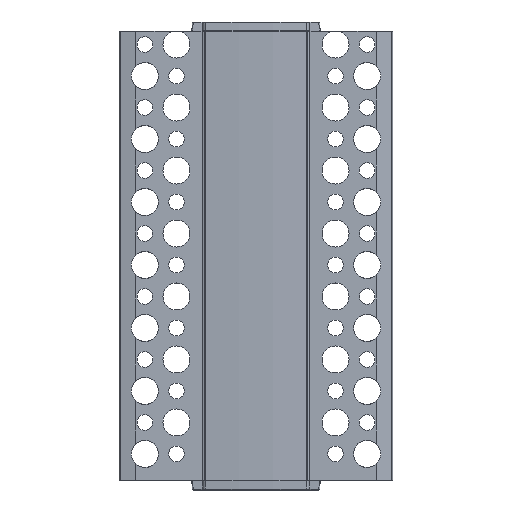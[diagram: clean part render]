
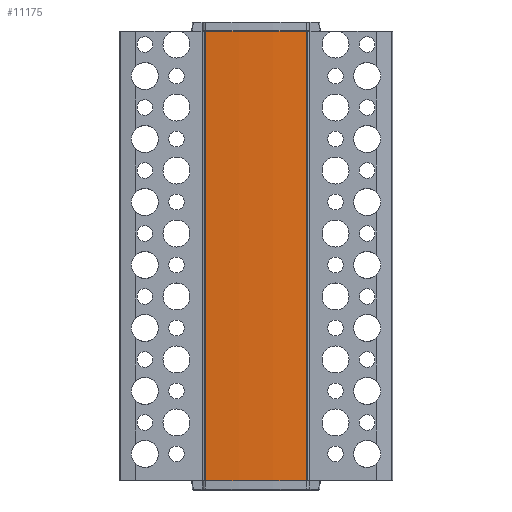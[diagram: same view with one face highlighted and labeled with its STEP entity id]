
A CAD part, top view. The second image highlights one B-rep face of the part: STEP entity #11175.
In plain terms, the highlighted cylindrical face has radius 136.173 mm (diameter 272.345 mm), a partial arc.
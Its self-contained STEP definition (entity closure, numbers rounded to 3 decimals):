
#859=FACE_OUTER_BOUND('',#1638,.T.);
#1638=EDGE_LOOP('',(#8390,#8391,#8392,#8393));
#2401=CIRCLE('',#12192,136.172);
#2413=CIRCLE('',#12205,136.172);
#3060=LINE('',#17780,#4011);
#3067=LINE('',#17820,#4018);
#4011=VECTOR('',#14175,0.2);
#4018=VECTOR('',#14214,0.2);
#5032=VERTEX_POINT('',#17777);
#5033=VERTEX_POINT('',#17779);
#5035=VERTEX_POINT('',#17785);
#5050=VERTEX_POINT('',#17818);
#6239=EDGE_CURVE('',#5032,#5033,#3060,.T.);
#6242=EDGE_CURVE('',#5033,#5035,#2401,.T.);
#6259=EDGE_CURVE('',#5050,#5032,#2413,.T.);
#6260=EDGE_CURVE('',#5035,#5050,#3067,.T.);
#8390=ORIENTED_EDGE('',*,*,#6239,.F.);
#8391=ORIENTED_EDGE('',*,*,#6259,.F.);
#8392=ORIENTED_EDGE('',*,*,#6260,.F.);
#8393=ORIENTED_EDGE('',*,*,#6242,.F.);
#10848=CYLINDRICAL_SURFACE('',#12204,136.172);
#11175=ADVANCED_FACE('',(#859),#10848,.T.);
#12192=AXIS2_PLACEMENT_3D('',#17786,#14181,#14182);
#12204=AXIS2_PLACEMENT_3D('',#17817,#14210,#14211);
#12205=AXIS2_PLACEMENT_3D('',#17819,#14212,#14213);
#14175=DIRECTION('',(0.,-1.,0.));
#14181=DIRECTION('center_axis',(0.,-1.,0.));
#14182=DIRECTION('ref_axis',(0.086,0.,0.996));
#14210=DIRECTION('center_axis',(0.,1.,0.));
#14211=DIRECTION('ref_axis',(0.086,0.,0.996));
#14212=DIRECTION('center_axis',(0.,1.,0.));
#14213=DIRECTION('ref_axis',(0.086,0.,0.996));
#14214=DIRECTION('',(0.,1.,0.));
#17777=CARTESIAN_POINT('',(11.235,100.,14.036));
#17779=CARTESIAN_POINT('',(11.235,0.,14.036));
#17780=CARTESIAN_POINT('',(11.235,0.,14.036));
#17785=CARTESIAN_POINT('',(-11.235,0.,14.036));
#17786=CARTESIAN_POINT('Origin',(0.,0.,-121.672));
#17817=CARTESIAN_POINT('Origin',(0.,0.,-121.672));
#17818=CARTESIAN_POINT('',(-11.235,100.,14.036));
#17819=CARTESIAN_POINT('Origin',(0.,100.,-121.672));
#17820=CARTESIAN_POINT('',(-11.235,0.,14.036));
